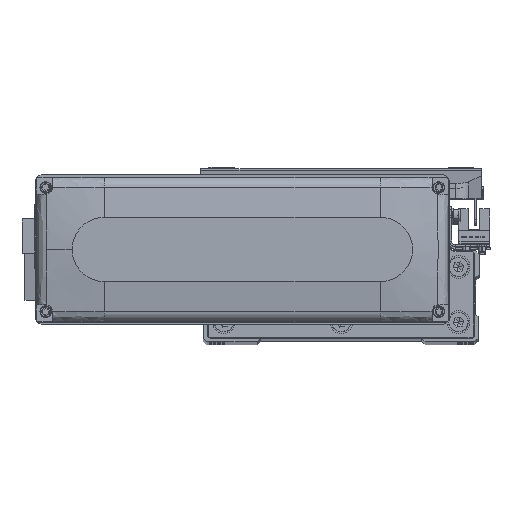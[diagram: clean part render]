
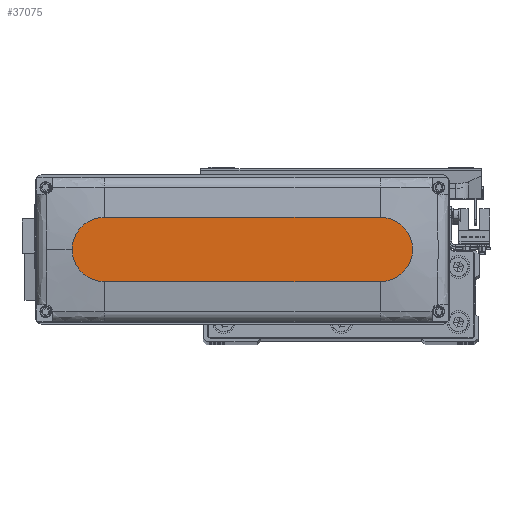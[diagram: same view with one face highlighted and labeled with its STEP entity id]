
A CAD part, top view. The second image highlights one B-rep face of the part: STEP entity #37075.
In plain terms, the highlighted planar face has unit normal (0, 0, 1).
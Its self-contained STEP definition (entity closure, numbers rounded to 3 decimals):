
#1271 = CARTESIAN_POINT ( 'NONE',  ( -60., 14., 28.5 ) ) ;
#1288 = VERTEX_POINT ( 'NONE', #1271 ) ;
#1854 = VECTOR ( 'NONE', #36000, 1000. ) ;
#2246 = AXIS2_PLACEMENT_3D ( 'NONE', #43181, #11382, #25556 ) ;
#3137 = CARTESIAN_POINT ( 'NONE',  ( -60., -14., 28.5 ) ) ;
#3877 = VERTEX_POINT ( 'NONE', #28813 ) ;
#5500 = VERTEX_POINT ( 'NONE', #3137 ) ;
#5765 = EDGE_CURVE ( 'NONE', #5500, #3877, #8713, .T. ) ;
#7397 = DIRECTION ( 'NONE',  ( 1., 0., 0. ) ) ;
#7513 = VERTEX_POINT ( 'NONE', #28875 ) ;
#7664 = LINE ( 'NONE', #21829, #1854 ) ;
#7917 = CIRCLE ( 'NONE', #33871, 14. ) ;
#7931 = EDGE_CURVE ( 'NONE', #7513, #1288, #7664, .T. ) ;
#8017 = VERTEX_POINT ( 'NONE', #34689 ) ;
#8713 = LINE ( 'NONE', #22851, #40813 ) ;
#9980 = EDGE_CURVE ( 'NONE', #3877, #8017, #22273, .T. ) ;
#10715 = CARTESIAN_POINT ( 'NONE',  ( 0., 0., 28.5 ) ) ;
#11382 = DIRECTION ( 'NONE',  ( 0., 0., 1. ) ) ;
#13767 = DIRECTION ( 'NONE',  ( 1., 0., 0. ) ) ;
#14635 = EDGE_CURVE ( 'NONE', #8017, #7513, #7917, .T. ) ;
#17088 = ORIENTED_EDGE ( 'NONE', *, *, #7931, .T. ) ;
#20699 = ORIENTED_EDGE ( 'NONE', *, *, #14635, .T. ) ;
#21170 = EDGE_LOOP ( 'NONE', ( #17088, #22503, #25747, #22358, #20699 ) ) ;
#21829 = CARTESIAN_POINT ( 'NONE',  ( -60., 14., 28.5 ) ) ;
#22273 = CIRCLE ( 'NONE', #2246, 14. ) ;
#22358 = ORIENTED_EDGE ( 'NONE', *, *, #9980, .T. ) ;
#22503 = ORIENTED_EDGE ( 'NONE', *, *, #41414, .T. ) ;
#22546 = AXIS2_PLACEMENT_3D ( 'NONE', #10715, #24882, #39041 ) ;
#22851 = CARTESIAN_POINT ( 'NONE',  ( -60., -14., 28.5 ) ) ;
#24882 = DIRECTION ( 'NONE',  ( 0., 0., 1. ) ) ;
#25072 = CARTESIAN_POINT ( 'NONE',  ( 60., 0., 28.5 ) ) ;
#25556 = DIRECTION ( 'NONE',  ( 1., 0., 0. ) ) ;
#25688 = AXIS2_PLACEMENT_3D ( 'NONE', #31402, #45540, #13767 ) ;
#25747 = ORIENTED_EDGE ( 'NONE', *, *, #5765, .T. ) ;
#28353 = FACE_OUTER_BOUND ( 'NONE', #21170, .T. ) ;
#28813 = CARTESIAN_POINT ( 'NONE',  ( 60., -14., 28.5 ) ) ;
#28875 = CARTESIAN_POINT ( 'NONE',  ( 60., 14., 28.5 ) ) ;
#31402 = CARTESIAN_POINT ( 'NONE',  ( -60., 0., 28.5 ) ) ;
#33871 = AXIS2_PLACEMENT_3D ( 'NONE', #25072, #39209, #7397 ) ;
#34689 = CARTESIAN_POINT ( 'NONE',  ( 74., 0., 28.5 ) ) ;
#36000 = DIRECTION ( 'NONE',  ( -1., 0., 0. ) ) ;
#37020 = DIRECTION ( 'NONE',  ( 1., 0., 0. ) ) ;
#37075 = ADVANCED_FACE ( 'NONE', ( #28353 ), #42499, .T. ) ;
#39041 = DIRECTION ( 'NONE',  ( 1., 0., 0. ) ) ;
#39209 = DIRECTION ( 'NONE',  ( 0., 0., 1. ) ) ;
#40813 = VECTOR ( 'NONE', #37020, 1000. ) ;
#41414 = EDGE_CURVE ( 'NONE', #1288, #5500, #45675, .T. ) ;
#42499 = PLANE ( 'NONE',  #22546 ) ;
#43181 = CARTESIAN_POINT ( 'NONE',  ( 60., 0., 28.5 ) ) ;
#45540 = DIRECTION ( 'NONE',  ( 0., 0., 1. ) ) ;
#45675 = CIRCLE ( 'NONE', #25688, 14. ) ;
